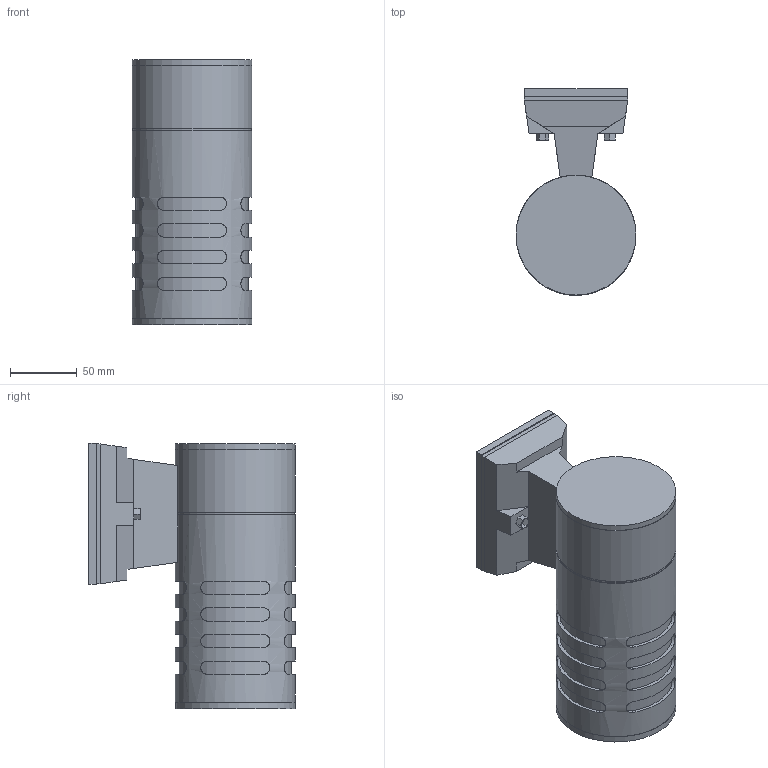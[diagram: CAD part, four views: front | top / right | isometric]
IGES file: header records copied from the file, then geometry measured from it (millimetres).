
Start section: SolidWorks IGES file using analytic representation for surfaces
Global section: file name: X:\PRODUKT\Modele 3D_WWW\_KOLEKCJE WWW\MEKONG\MEKONG-4418\MEKONG-4418.IGS; native system: SolidWorks 2021; preprocessor: SolidWorks 2021; author: gabriela.tworek; date: 220923.103236; units: millimetre
Bounding box: 90 x 155.11 x 199.3 mm (x, y, z)
Surface area: 220176.4 mm2 (no closed solid volume)
Topology: 0 solids, 0 shells, 146 faces, 717 edges, 691 vertices
Faces by surface type: bspline 96, revolution 50
